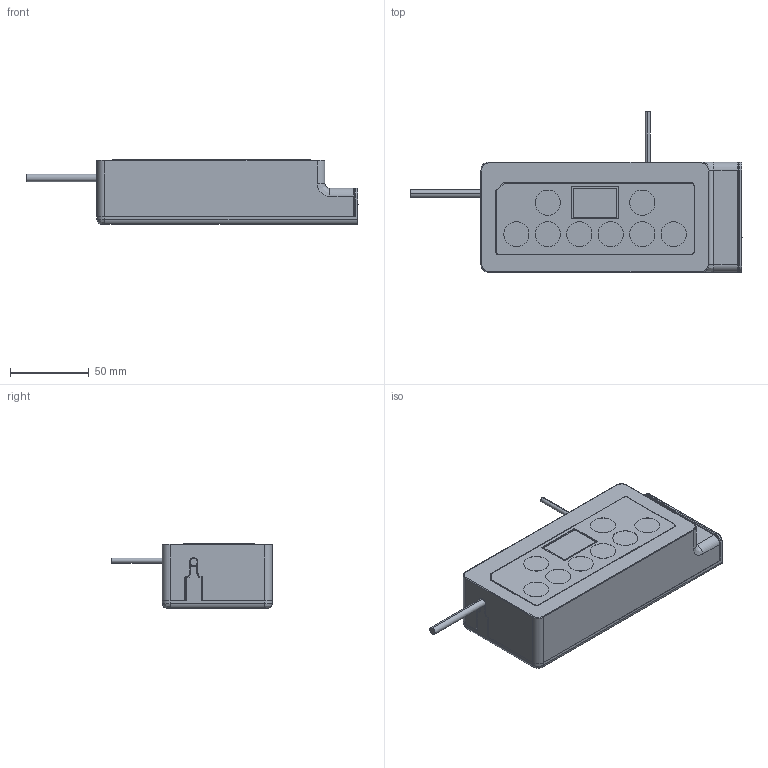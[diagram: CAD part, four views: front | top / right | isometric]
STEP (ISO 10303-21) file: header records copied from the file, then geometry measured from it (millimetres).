
FILE_DESCRIPTION (( 'STEP AP203' ), '1' );
FILE_NAME ('3D_TDH19P.STEP', '2019-10-23T10:57:41', ( '' ), ( '' ), 'SwSTEP 2.0', 'SolidWorks 2015', '' );
FILE_SCHEMA (( 'CONFIG_CONTROL_DESIGN' ));
Length unit declared in the file: millimetre
Products named in the file (1): 3D_TDH19P
Bounding box: 211.1 x 102.1 x 40.99 mm (x, y, z)
Volume: 444894.8 mm3; surface area: 83059.4 mm2
Topology: 8 solids, 8 shells, 737 faces, 1796 edges, 1085 vertices
Faces by surface type: plane 323, cylinder 246, bspline 150, cone 18
Entity records: 23246 total; most frequent: CARTESIAN_POINT 6603, ORIENTED_EDGE 3564, DIRECTION 3327, EDGE_CURVE 1782, AXIS2_PLACEMENT_3D 1125, VERTEX_POINT 1085, VECTOR 1077, LINE 1077
